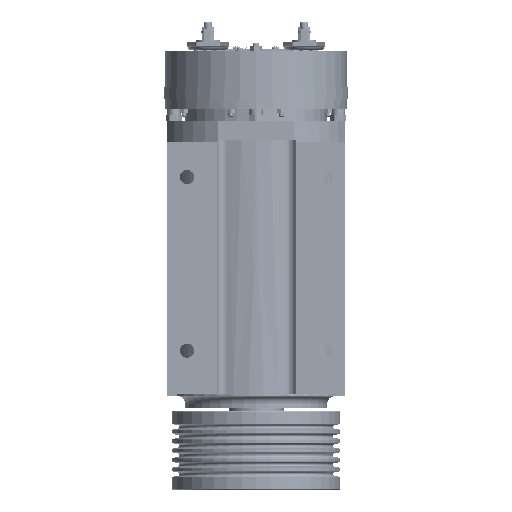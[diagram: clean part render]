
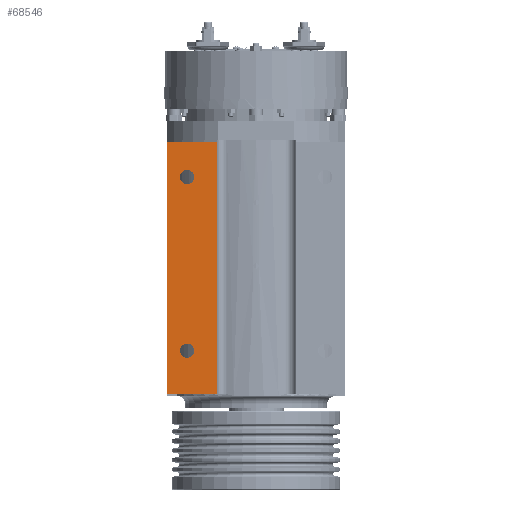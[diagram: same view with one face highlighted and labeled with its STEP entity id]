
A CAD part, front view. The second image highlights one B-rep face of the part: STEP entity #68546.
In plain terms, the highlighted planar face has unit normal (0, -1, 0).
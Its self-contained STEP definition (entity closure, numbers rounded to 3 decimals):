
#1468 = VERTEX_POINT ( 'NONE', #127328 ) ;
#6138 = DIRECTION ( 'NONE',  ( 0., -1., 0. ) ) ;
#10088 = ORIENTED_EDGE ( 'NONE', *, *, #68486, .F. ) ;
#14326 = VERTEX_POINT ( 'NONE', #119066 ) ;
#16524 = VERTEX_POINT ( 'NONE', #36633 ) ;
#20551 = LINE ( 'NONE', #126982, #109498 ) ;
#20596 = VERTEX_POINT ( 'NONE', #38896 ) ;
#20804 = CARTESIAN_POINT ( 'NONE',  ( -50., -137.5, -167.5 ) ) ;
#23203 = AXIS2_PLACEMENT_3D ( 'NONE', #125912, #6138, #77111 ) ;
#23610 = DIRECTION ( 'NONE',  ( 0., -1., 0. ) ) ;
#25625 = VECTOR ( 'NONE', #47562, 1000. ) ;
#26121 = CARTESIAN_POINT ( 'NONE',  ( -87.5, -137.5, -121.5 ) ) ;
#27279 = EDGE_LOOP ( 'NONE', ( #156235, #156625 ) ) ;
#27544 = AXIS2_PLACEMENT_3D ( 'NONE', #80707, #140660, #33030 ) ;
#29692 = EDGE_LOOP ( 'NONE', ( #101143, #10088 ) ) ;
#33030 = DIRECTION ( 'NONE',  ( 0., 0., -1. ) ) ;
#35363 = CARTESIAN_POINT ( 'NONE',  ( -112.5, -137.5, 155. ) ) ;
#36633 = CARTESIAN_POINT ( 'NONE',  ( -87.5, -137.5, -103.5 ) ) ;
#38896 = CARTESIAN_POINT ( 'NONE',  ( -87.5, -137.5, 116.5 ) ) ;
#41648 = DIRECTION ( 'NONE',  ( 0., -1., 0. ) ) ;
#47174 = FACE_BOUND ( 'NONE', #27279, .T. ) ;
#47416 = CARTESIAN_POINT ( 'NONE',  ( -112.5, -137.5, 155. ) ) ;
#47562 = DIRECTION ( 'NONE',  ( 0., 0., -1. ) ) ;
#48477 = PLANE ( 'NONE',  #119667 ) ;
#52249 = CARTESIAN_POINT ( 'NONE',  ( 0., -137.5, -167.5 ) ) ;
#55190 = CIRCLE ( 'NONE', #57768, 9. ) ;
#57554 = CARTESIAN_POINT ( 'NONE',  ( -112.5, -137.5, 152.5 ) ) ;
#57768 = AXIS2_PLACEMENT_3D ( 'NONE', #66564, #41648, #137584 ) ;
#62910 = DIRECTION ( 'NONE',  ( -1., 0., 0. ) ) ;
#64003 = VECTOR ( 'NONE', #155066, 1000. ) ;
#66527 = VERTEX_POINT ( 'NONE', #26121 ) ;
#66564 = CARTESIAN_POINT ( 'NONE',  ( -87.5, -137.5, -112.5 ) ) ;
#68486 = EDGE_CURVE ( 'NONE', #16524, #66527, #141942, .T. ) ;
#68546 = ADVANCED_FACE ( 'NONE', ( #107879, #151460, #47174 ), #48477, .F. ) ;
#69762 = VERTEX_POINT ( 'NONE', #87710 ) ;
#70924 = AXIS2_PLACEMENT_3D ( 'NONE', #119454, #23610, #82894 ) ;
#75349 = VERTEX_POINT ( 'NONE', #57554 ) ;
#77111 = DIRECTION ( 'NONE',  ( 0., 0., -1. ) ) ;
#77571 = EDGE_CURVE ( 'NONE', #103884, #14326, #122330, .T. ) ;
#78257 = CIRCLE ( 'NONE', #23203, 9. ) ;
#80707 = CARTESIAN_POINT ( 'NONE',  ( -87.5, -137.5, 107.5 ) ) ;
#81396 = CARTESIAN_POINT ( 'NONE',  ( -50., -137.5, 155. ) ) ;
#82894 = DIRECTION ( 'NONE',  ( 0., 0., -1. ) ) ;
#85779 = CIRCLE ( 'NONE', #27544, 9. ) ;
#86422 = ORIENTED_EDGE ( 'NONE', *, *, #107878, .F. ) ;
#87710 = CARTESIAN_POINT ( 'NONE',  ( -50., -137.5, 152.5 ) ) ;
#96646 = DIRECTION ( 'NONE',  ( 0., 1., 0. ) ) ;
#97842 = ORIENTED_EDGE ( 'NONE', *, *, #151406, .F. ) ;
#99134 = EDGE_LOOP ( 'NONE', ( #131346, #120699, #86422, #97842 ) ) ;
#99485 = LINE ( 'NONE', #35363, #25625 ) ;
#101143 = ORIENTED_EDGE ( 'NONE', *, *, #115114, .F. ) ;
#103884 = VERTEX_POINT ( 'NONE', #20804 ) ;
#107878 = EDGE_CURVE ( 'NONE', #69762, #103884, #137883, .T. ) ;
#107879 = FACE_OUTER_BOUND ( 'NONE', #99134, .T. ) ;
#109498 = VECTOR ( 'NONE', #115797, 1000. ) ;
#115055 = EDGE_CURVE ( 'NONE', #20596, #1468, #78257, .T. ) ;
#115114 = EDGE_CURVE ( 'NONE', #66527, #16524, #55190, .T. ) ;
#115797 = DIRECTION ( 'NONE',  ( 1., 0., 0. ) ) ;
#119066 = CARTESIAN_POINT ( 'NONE',  ( -112.5, -137.5, -167.5 ) ) ;
#119454 = CARTESIAN_POINT ( 'NONE',  ( -87.5, -137.5, -112.5 ) ) ;
#119667 = AXIS2_PLACEMENT_3D ( 'NONE', #47416, #96646, #143389 ) ;
#120699 = ORIENTED_EDGE ( 'NONE', *, *, #77571, .F. ) ;
#122330 = LINE ( 'NONE', #52249, #135563 ) ;
#125912 = CARTESIAN_POINT ( 'NONE',  ( -87.5, -137.5, 107.5 ) ) ;
#126982 = CARTESIAN_POINT ( 'NONE',  ( -112.5, -137.5, 152.5 ) ) ;
#127328 = CARTESIAN_POINT ( 'NONE',  ( -87.5, -137.5, 98.5 ) ) ;
#131346 = ORIENTED_EDGE ( 'NONE', *, *, #134566, .T. ) ;
#134566 = EDGE_CURVE ( 'NONE', #75349, #14326, #99485, .T. ) ;
#135563 = VECTOR ( 'NONE', #62910, 1000. ) ;
#137584 = DIRECTION ( 'NONE',  ( 0., 0., -1. ) ) ;
#137883 = LINE ( 'NONE', #81396, #64003 ) ;
#140660 = DIRECTION ( 'NONE',  ( 0., -1., 0. ) ) ;
#141942 = CIRCLE ( 'NONE', #70924, 9. ) ;
#143389 = DIRECTION ( 'NONE',  ( 0., 0., 1. ) ) ;
#149262 = EDGE_CURVE ( 'NONE', #1468, #20596, #85779, .T. ) ;
#151406 = EDGE_CURVE ( 'NONE', #75349, #69762, #20551, .T. ) ;
#151460 = FACE_BOUND ( 'NONE', #29692, .T. ) ;
#155066 = DIRECTION ( 'NONE',  ( 0., 0., -1. ) ) ;
#156235 = ORIENTED_EDGE ( 'NONE', *, *, #149262, .F. ) ;
#156625 = ORIENTED_EDGE ( 'NONE', *, *, #115055, .F. ) ;
